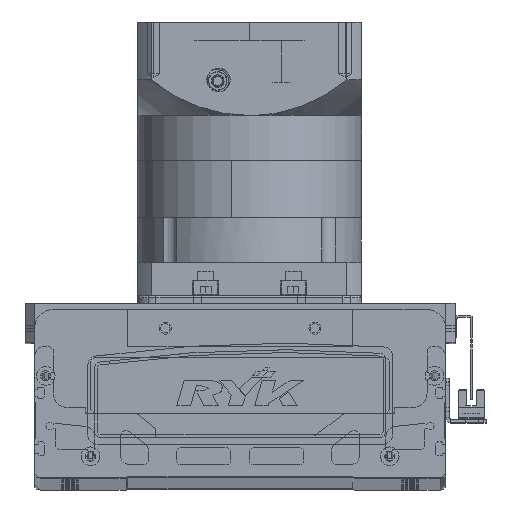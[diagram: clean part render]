
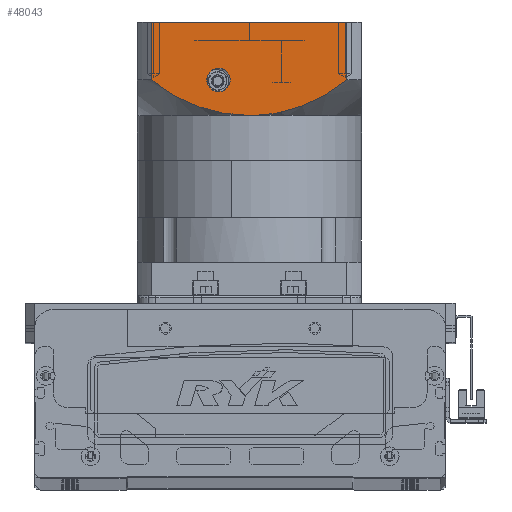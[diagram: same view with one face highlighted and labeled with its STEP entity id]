
A CAD part, top view. The second image highlights one B-rep face of the part: STEP entity #48043.
In plain terms, the highlighted planar face has unit normal (0, 0, 1) as drawn and (0, -1, 0) by its records, which use the part's own axes.
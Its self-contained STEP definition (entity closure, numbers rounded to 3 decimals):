
#269 = CARTESIAN_POINT ( 'NONE',  ( 52.156, -60., -119.5 ) ) ;
#1557 = VECTOR ( 'NONE', #24445, 1000. ) ;
#2692 = CARTESIAN_POINT ( 'NONE',  ( 48.457, -60., -116.522 ) ) ;
#3928 = CARTESIAN_POINT ( 'NONE',  ( 52.156, -60., -150.5 ) ) ;
#5278 = VERTEX_POINT ( 'NONE', #269 ) ;
#5590 = ORIENTED_EDGE ( 'NONE', *, *, #63913, .F. ) ;
#6531 = ORIENTED_EDGE ( 'NONE', *, *, #30684, .T. ) ;
#7441 = DIRECTION ( 'NONE',  ( 0., 0., -1. ) ) ;
#7822 = VERTEX_POINT ( 'NONE', #61460 ) ;
#8204 = CARTESIAN_POINT ( 'NONE',  ( 36.444, -60., -108.986 ) ) ;
#8427 = AXIS2_PLACEMENT_3D ( 'NONE', #70886, #71404, #17005 ) ;
#8706 = CARTESIAN_POINT ( 'NONE',  ( 44.553, -60., -113.817 ) ) ;
#8985 = CARTESIAN_POINT ( 'NONE',  ( 16.426, -60., -102.169 ) ) ;
#9231 = CARTESIAN_POINT ( 'NONE',  ( 15.267, -60., -101.938 ) ) ;
#9283 = CARTESIAN_POINT ( 'NONE',  ( -9.477, -60., -101.046 ) ) ;
#9542 = CARTESIAN_POINT ( 'NONE',  ( -39.546, -60., -110.776 ) ) ;
#10252 = ORIENTED_EDGE ( 'NONE', *, *, #71717, .F. ) ;
#10946 = CARTESIAN_POINT ( 'NONE',  ( 52.156, -60., -150.5 ) ) ;
#11046 = ORIENTED_EDGE ( 'NONE', *, *, #24274, .T. ) ;
#12916 = CIRCLE ( 'NONE', #8427, 6.25 ) ;
#13751 = CARTESIAN_POINT ( 'NONE',  ( -52.156, -60., -119.5 ) ) ;
#15864 = CARTESIAN_POINT ( 'NONE',  ( -2.376, -60., -100.5 ) ) ;
#16642 = AXIS2_PLACEMENT_3D ( 'NONE', #32370, #49585, #7441 ) ;
#17005 = DIRECTION ( 'NONE',  ( 0., 0., -1. ) ) ;
#17199 = PLANE ( 'NONE',  #47008 ) ;
#19695 = ORIENTED_EDGE ( 'NONE', *, *, #62451, .T. ) ;
#20259 = CARTESIAN_POINT ( 'NONE',  ( 52.156, -60., -119.5 ) ) ;
#21027 = CARTESIAN_POINT ( 'NONE',  ( 25.577, -60., -104.596 ) ) ;
#21078 = CARTESIAN_POINT ( 'NONE',  ( -32.118, -60., -107.084 ) ) ;
#21999 = DIRECTION ( 'NONE',  ( 0., 0., 1. ) ) ;
#22891 = CARTESIAN_POINT ( 'NONE',  ( 16.5, -60., -125.75 ) ) ;
#23712 = DIRECTION ( 'NONE',  ( 0., -1., 0. ) ) ;
#24119 = VECTOR ( 'NONE', #21999, 1000. ) ;
#24176 = CARTESIAN_POINT ( 'NONE',  ( -52.156, -60., -97.5 ) ) ;
#24274 = EDGE_CURVE ( 'NONE', #7822, #54539, #66138, .T. ) ;
#24445 = DIRECTION ( 'NONE',  ( 1., 0., 0. ) ) ;
#26531 = CARTESIAN_POINT ( 'NONE',  ( 19.894, -60., -102.964 ) ) ;
#26691 = VERTEX_POINT ( 'NONE', #64135 ) ;
#27069 = CARTESIAN_POINT ( 'NONE',  ( 32.196, -60., -107.007 ) ) ;
#28437 = EDGE_CURVE ( 'NONE', #26691, #5278, #33267, .T. ) ;
#30684 = EDGE_CURVE ( 'NONE', #54539, #7822, #12916, .T. ) ;
#32093 = CARTESIAN_POINT ( 'NONE',  ( 23.329, -60., -103.886 ) ) ;
#32370 = CARTESIAN_POINT ( 'NONE',  ( 16.5, -60., -119.5 ) ) ;
#33267 = B_SPLINE_CURVE_WITH_KNOTS ( 'NONE', 3,
 ( #73391, #37584, #45133, #9231, #8985, #51119, #26531, #32093, #21027, #27069, #8204, #50578, #62891, #8706, #68931, #2692, #56605, #20259 ),
 .UNSPECIFIED., .F., .F.,
 ( 4, 2, 2, 2, 2, 2, 2, 2, 4 ),
 ( 0., 0.014, 0.018, 0.021, 0.028, 0.042, 0.046, 0.05, 0.057 ),
 .UNSPECIFIED. ) ;
#33442 = CARTESIAN_POINT ( 'NONE',  ( -12.993, -60., -101.537 ) ) ;
#37030 = EDGE_CURVE ( 'NONE', #54077, #5278, #42862, .T. ) ;
#37584 = CARTESIAN_POINT ( 'NONE',  ( 4.753, -60., -100.5 ) ) ;
#39447 = CARTESIAN_POINT ( 'NONE',  ( 0., -60., -100.5 ) ) ;
#39738 = ORIENTED_EDGE ( 'NONE', *, *, #37030, .T. ) ;
#42787 = DIRECTION ( 'NONE',  ( 0., 0., 1. ) ) ;
#42862 = LINE ( 'NONE', #3928, #24119 ) ;
#44133 = VERTEX_POINT ( 'NONE', #60839 ) ;
#44506 = VECTOR ( 'NONE', #42787, 1000. ) ;
#45133 = CARTESIAN_POINT ( 'NONE',  ( 9.454, -60., -100.914 ) ) ;
#45962 = CARTESIAN_POINT ( 'NONE',  ( -29.939, -60., -106.183 ) ) ;
#47008 = AXIS2_PLACEMENT_3D ( 'NONE', #70826, #23712, #59304 ) ;
#48043 = ADVANCED_FACE ( 'NONE', ( #64473, #60706 ), #17199, .T. ) ;
#49221 = LINE ( 'NONE', #24176, #44506 ) ;
#49585 = DIRECTION ( 'NONE',  ( 0., 1., 0. ) ) ;
#50578 = CARTESIAN_POINT ( 'NONE',  ( 41.545, -60., -111.931 ) ) ;
#51119 = CARTESIAN_POINT ( 'NONE',  ( 18.739, -60., -102.681 ) ) ;
#51930 = CARTESIAN_POINT ( 'NONE',  ( -35.342, -60., -108.587 ) ) ;
#53095 = LINE ( 'NONE', #66042, #1557 ) ;
#54077 = VERTEX_POINT ( 'NONE', #10946 ) ;
#54539 = VERTEX_POINT ( 'NONE', #22891 ) ;
#55624 = CARTESIAN_POINT ( 'NONE',  ( -48.52, -60., -116.438 ) ) ;
#56605 = CARTESIAN_POINT ( 'NONE',  ( 50.338, -60., -117.969 ) ) ;
#57721 = CARTESIAN_POINT ( 'NONE',  ( -8.294, -60., -100.916 ) ) ;
#59304 = DIRECTION ( 'NONE',  ( 1., 0., 0. ) ) ;
#60706 = FACE_BOUND ( 'NONE', #64401, .T. ) ;
#60839 = CARTESIAN_POINT ( 'NONE',  ( -52.156, -60., -150.5 ) ) ;
#61460 = CARTESIAN_POINT ( 'NONE',  ( 16.5, -60., -113.25 ) ) ;
#62451 = EDGE_CURVE ( 'NONE', #44133, #54077, #53095, .T. ) ;
#62891 = CARTESIAN_POINT ( 'NONE',  ( 42.555, -60., -112.543 ) ) ;
#63913 = EDGE_CURVE ( 'NONE', #44133, #72108, #49221, .T. ) ;
#63982 = CARTESIAN_POINT ( 'NONE',  ( -36.409, -60., -109.113 ) ) ;
#64135 = CARTESIAN_POINT ( 'NONE',  ( 0., -60., -100.5 ) ) ;
#64401 = EDGE_LOOP ( 'NONE', ( #6531, #11046 ) ) ;
#64473 = FACE_OUTER_BOUND ( 'NONE', #76807, .T. ) ;
#65125 = ORIENTED_EDGE ( 'NONE', *, *, #28437, .F. ) ;
#66042 = CARTESIAN_POINT ( 'NONE',  ( -60., -60., -150.5 ) ) ;
#66138 = CIRCLE ( 'NONE', #16642, 6.25 ) ;
#67572 = CARTESIAN_POINT ( 'NONE',  ( -52.156, -60., -119.5 ) ) ;
#67669 = CARTESIAN_POINT ( 'NONE',  ( -44.656, -60., -113.73 ) ) ;
#68702 = CARTESIAN_POINT ( 'NONE',  ( -18.792, -60., -102.562 ) ) ;
#68931 = CARTESIAN_POINT ( 'NONE',  ( 45.542, -60., -114.478 ) ) ;
#68966 = CARTESIAN_POINT ( 'NONE',  ( -38.51, -60., -110.207 ) ) ;
#69497 = CARTESIAN_POINT ( 'NONE',  ( -4.747, -60., -100.604 ) ) ;
#70732 = B_SPLINE_CURVE_WITH_KNOTS ( 'NONE', 3,
 ( #13751, #55624, #67669, #9542, #68966, #63982, #51930, #21078, #45962, #75777, #68702, #33442, #75248, #9283, #57721, #69497, #15864, #39447 ),
 .UNSPECIFIED., .F., .F.,
 ( 4, 2, 2, 2, 2, 2, 2, 2, 4 ),
 ( 0., 0.014, 0.018, 0.021, 0.028, 0.042, 0.046, 0.05, 0.057 ),
 .UNSPECIFIED. ) ;
#70826 = CARTESIAN_POINT ( 'NONE',  ( -60., -60., -150.5 ) ) ;
#70886 = CARTESIAN_POINT ( 'NONE',  ( 16.5, -60., -119.5 ) ) ;
#71404 = DIRECTION ( 'NONE',  ( 0., 1., 0. ) ) ;
#71717 = EDGE_CURVE ( 'NONE', #72108, #26691, #70732, .T. ) ;
#72108 = VERTEX_POINT ( 'NONE', #67572 ) ;
#73391 = CARTESIAN_POINT ( 'NONE',  ( 0., -60., -100.5 ) ) ;
#75248 = CARTESIAN_POINT ( 'NONE',  ( -11.825, -60., -101.356 ) ) ;
#75777 = CARTESIAN_POINT ( 'NONE',  ( -23.319, -60., -103.777 ) ) ;
#76807 = EDGE_LOOP ( 'NONE', ( #5590, #19695, #39738, #65125, #10252 ) ) ;
